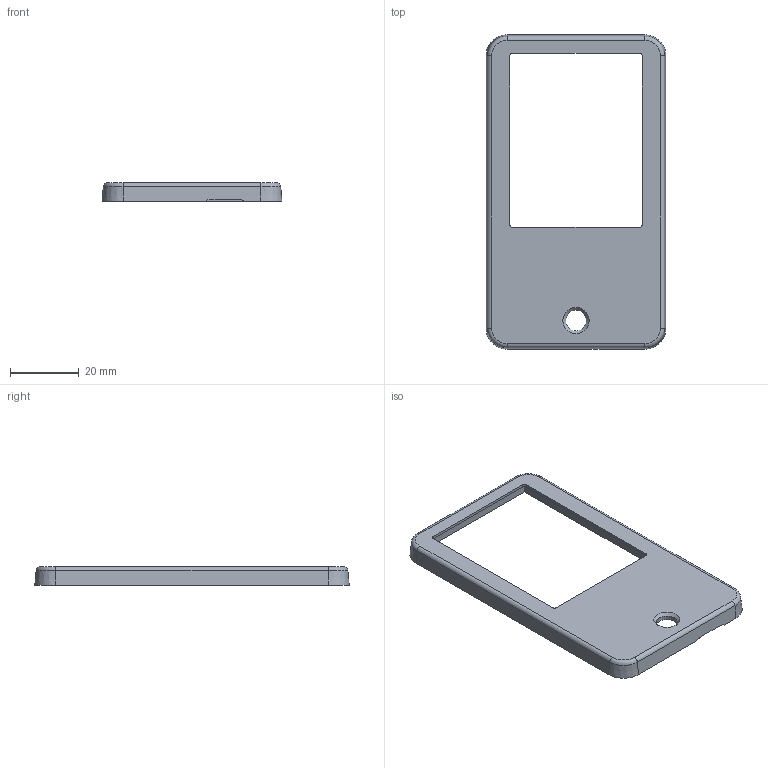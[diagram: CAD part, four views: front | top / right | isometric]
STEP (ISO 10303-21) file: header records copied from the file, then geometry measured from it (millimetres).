
FILE_DESCRIPTION(('Open CASCADE Model'),'2;1');
FILE_NAME('Open CASCADE Shape Model','2026-10-31T23:32:29',('Author'),( 'Open CASCADE'),'Open CASCADE STEP processor 7.7','Open CASCADE 7.7' ,'Unknown');
FILE_SCHEMA(('AUTOMOTIVE_DESIGN { 1 0 10303 214 1 1 1 1 }'));
Length unit declared in the file: millimetre
Products named in the file (1): SOLID
Bounding box: 52.2 x 91.2 x 5.33 mm (x, y, z)
Volume: 6390.6 mm3; surface area: 8869.8 mm2
Topology: 1 solids, 1 shells, 72 faces, 189 edges, 123 vertices
Faces by surface type: plane 42, cylinder 21, cone 5, torus 4
Full cylindrical faces by diameter (mm): 1.6 x1, 4.4 x1, 6 x1
Entity records: 4622 total; most frequent: CARTESIAN_POINT 1032, DIRECTION 609, ORIENTED_EDGE 378, PCURVE 378, DEFINITIONAL_REPRESENTATION 378, LINE 331, VECTOR 331, EDGE_CURVE 189
